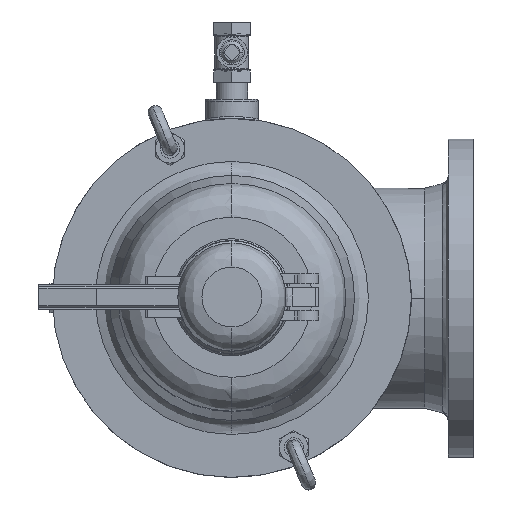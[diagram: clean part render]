
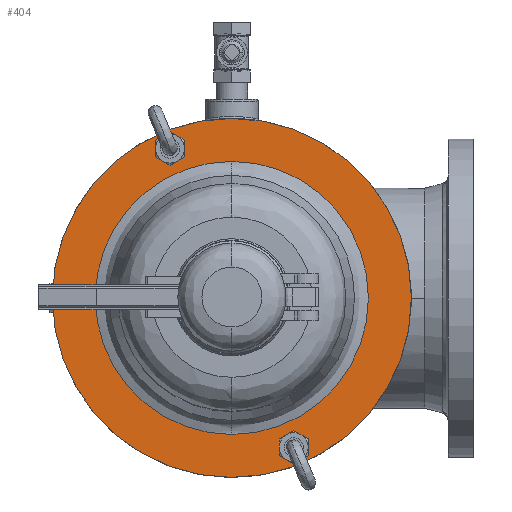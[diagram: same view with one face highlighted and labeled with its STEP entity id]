
A CAD part, top view. The second image highlights one B-rep face of the part: STEP entity #404.
In plain terms, the highlighted planar face has unit normal (0, 0, 1) as drawn and (0, 1, 0) by its records, which use the part's own axes.
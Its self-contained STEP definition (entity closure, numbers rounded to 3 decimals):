
#404=ADVANCED_FACE('',(#947,#948,#949,#950),#946,.T.);
#946=PLANE('',#5828);
#947=FACE_OUTER_BOUND('',#5829,.T.);
#948=FACE_BOUND('',#5830,.T.);
#949=FACE_BOUND('',#5831,.T.);
#950=FACE_BOUND('',#5832,.T.);
#5825=CARTESIAN_POINT('',(-332.161,185.5,-382.));
#5826=DIRECTION('',(0.,1.,0.));
#5827=DIRECTION('',(0.,0.,1.));
#5828=AXIS2_PLACEMENT_3D('',#5825,#5826,#5827);
#5829=EDGE_LOOP('',(#15238,#15239));
#5830=EDGE_LOOP('',(#15240,#15241));
#5831=EDGE_LOOP('',(#15242,#15243));
#5832=EDGE_LOOP('',(#15244,#15245));
#15238=ORIENTED_EDGE('',*,*,#17742,.T.);
#15239=ORIENTED_EDGE('',*,*,#17743,.T.);
#15240=ORIENTED_EDGE('',*,*,#17744,.F.);
#15241=ORIENTED_EDGE('',*,*,#17745,.F.);
#15242=ORIENTED_EDGE('',*,*,#17746,.F.);
#15243=ORIENTED_EDGE('',*,*,#17747,.F.);
#15244=ORIENTED_EDGE('',*,*,#17748,.T.);
#15245=ORIENTED_EDGE('',*,*,#17749,.T.);
#17742=EDGE_CURVE('',#19138,#19139,#19140,.T.);
#17743=EDGE_CURVE('',#19139,#19138,#19146,.T.);
#17744=EDGE_CURVE('',#19152,#19153,#19154,.T.);
#17745=EDGE_CURVE('',#19153,#19152,#19160,.T.);
#17746=EDGE_CURVE('',#19166,#19167,#19168,.T.);
#17747=EDGE_CURVE('',#19167,#19166,#19174,.T.);
#17748=EDGE_CURVE('',#19180,#19181,#19182,.T.);
#17749=EDGE_CURVE('',#19181,#19180,#19188,.T.);
#19138=VERTEX_POINT('',#27458);
#19139=VERTEX_POINT('',#27459);
#19140=CIRCLE('',#27463,186.);
#19146=CIRCLE('',#27467,186.);
#19152=VERTEX_POINT('',#27468);
#19153=VERTEX_POINT('',#27469);
#19154=CIRCLE('',#27473,10.);
#19160=CIRCLE('',#27477,10.);
#19166=VERTEX_POINT('',#27478);
#19167=VERTEX_POINT('',#27479);
#19168=CIRCLE('',#27483,10.);
#19174=CIRCLE('',#27487,10.);
#19180=VERTEX_POINT('',#27488);
#19181=VERTEX_POINT('',#27489);
#19182=CIRCLE('',#27493,141.51);
#19188=CIRCLE('',#27497,141.51);
#27458=CARTESIAN_POINT('',(0.,185.5,186.));
#27459=CARTESIAN_POINT('',(0.,185.5,-186.));
#27460=CARTESIAN_POINT('',(0.,185.5,0.));
#27461=DIRECTION('',(0.,1.,0.));
#27462=DIRECTION('',(0.,0.,1.));
#27463=AXIS2_PLACEMENT_3D('',#27460,#27461,#27462);
#27464=CARTESIAN_POINT('',(0.,185.5,0.));
#27465=DIRECTION('',(0.,1.,0.));
#27466=DIRECTION('',(0.,0.,1.));
#27467=AXIS2_PLACEMENT_3D('',#27464,#27465,#27466);
#27468=CARTESIAN_POINT('',(-64.099,185.5,-164.75));
#27469=CARTESIAN_POINT('',(-64.099,185.5,-144.75));
#27470=CARTESIAN_POINT('',(-64.099,185.5,-154.75));
#27471=DIRECTION('',(0.,1.,0.));
#27472=DIRECTION('',(0.,0.,1.));
#27473=AXIS2_PLACEMENT_3D('',#27470,#27471,#27472);
#27474=CARTESIAN_POINT('',(-64.099,185.5,-154.75));
#27475=DIRECTION('',(0.,1.,0.));
#27476=DIRECTION('',(0.,0.,1.));
#27477=AXIS2_PLACEMENT_3D('',#27474,#27475,#27476);
#27478=CARTESIAN_POINT('',(64.099,185.5,144.75));
#27479=CARTESIAN_POINT('',(64.099,185.5,164.75));
#27480=CARTESIAN_POINT('',(64.099,185.5,154.75));
#27481=DIRECTION('',(0.,1.,0.));
#27482=DIRECTION('',(0.,0.,1.));
#27483=AXIS2_PLACEMENT_3D('',#27480,#27481,#27482);
#27484=CARTESIAN_POINT('',(64.099,185.5,154.75));
#27485=DIRECTION('',(0.,1.,0.));
#27486=DIRECTION('',(0.,0.,1.));
#27487=AXIS2_PLACEMENT_3D('',#27484,#27485,#27486);
#27488=CARTESIAN_POINT('',(0.,185.5,141.51));
#27489=CARTESIAN_POINT('',(0.,185.5,-141.51));
#27490=CARTESIAN_POINT('',(0.,185.5,0.));
#27491=DIRECTION('',(0.,-1.,0.));
#27492=DIRECTION('',(0.,0.,1.));
#27493=AXIS2_PLACEMENT_3D('',#27490,#27491,#27492);
#27494=CARTESIAN_POINT('',(0.,185.5,0.));
#27495=DIRECTION('',(0.,-1.,0.));
#27496=DIRECTION('',(0.,0.,1.));
#27497=AXIS2_PLACEMENT_3D('',#27494,#27495,#27496);
